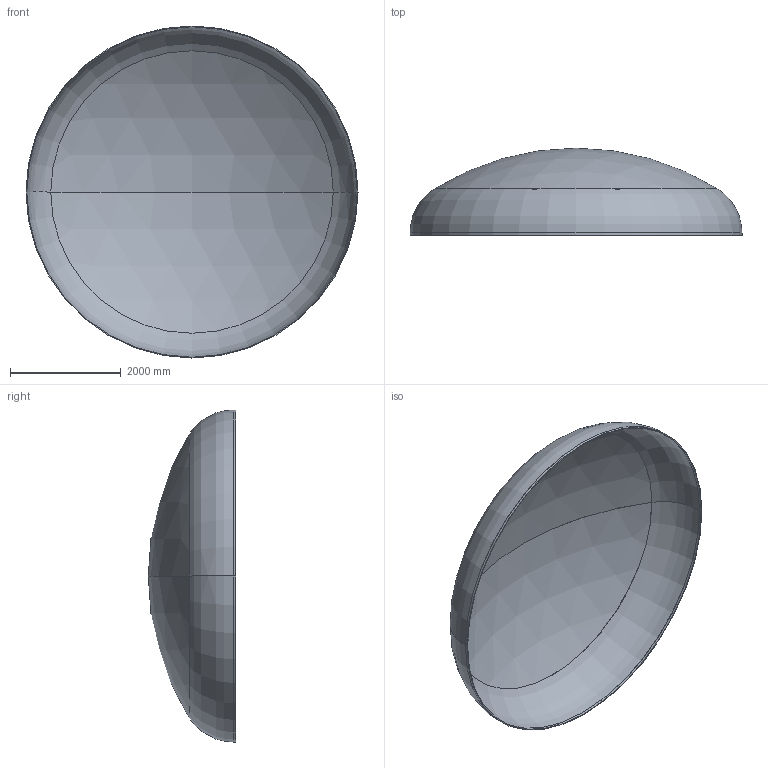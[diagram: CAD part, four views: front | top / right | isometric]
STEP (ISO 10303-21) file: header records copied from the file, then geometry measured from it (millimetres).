
FILE_DESCRIPTION (( 'STEP AP203' ), '1' );
FILE_NAME ('DIN 28013 Korbbogenform_-_Boden DIN 28013 - 6000 x 45 - I - s=14.step', '2016-07-04T10:35:49', ( '' ), ( '' ), 'SwSTEP 2.0', 'SolidWorks 2013', '' );
FILE_SCHEMA (( 'CONFIG_CONTROL_DESIGN' ));
Length unit declared in the file: millimetre
Products named in the file (1): DIN 28013 Korbbogenform_-_Boden DIN 28013 - 6000 x 45 - I - s=14
Bounding box: 6000 x 1577.55 x 6000 mm (x, y, z)
Volume: 558553310.3 mm3; surface area: 80056985.8 mm2
Topology: 1 solids, 1 shells, 13 faces, 24 edges, 14 vertices
Faces by surface type: torus 4, cylinder 4, sphere 4, plane 1
Entity records: 407 total; most frequent: DIRECTION 72, CARTESIAN_POINT 52, ORIENTED_EDGE 48, AXIS2_PLACEMENT_3D 34, EDGE_CURVE 24, CIRCLE 20, VERTEX_POINT 14, EDGE_LOOP 14
